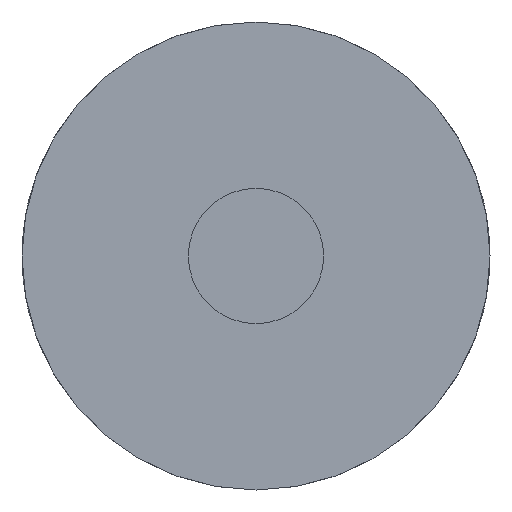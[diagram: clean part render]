
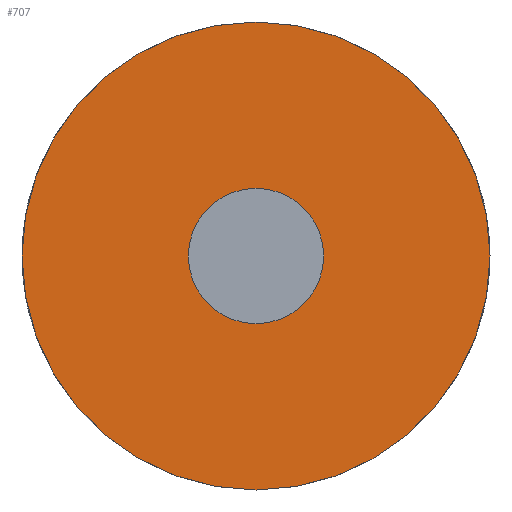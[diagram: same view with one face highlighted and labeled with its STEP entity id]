
A CAD part, front view. The second image highlights one B-rep face of the part: STEP entity #707.
In plain terms, the highlighted planar face has unit normal (0, -1, 0).
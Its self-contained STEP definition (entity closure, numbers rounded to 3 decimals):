
#3 = CARTESIAN_POINT ( 'NONE',  ( 0., 0., 0. ) ) ;
#31 = CARTESIAN_POINT ( 'NONE',  ( 0., 0., 0. ) ) ;
#68 = CIRCLE ( 'NONE', #885, 6. ) ;
#72 = DIRECTION ( 'NONE',  ( 0., 0., 1. ) ) ;
#81 = DIRECTION ( 'NONE',  ( 0., 0., 1. ) ) ;
#103 = CARTESIAN_POINT ( 'NONE',  ( 0., 0., 0. ) ) ;
#160 = EDGE_CURVE ( 'NONE', #254, #847, #68, .T. ) ;
#163 = DIRECTION ( 'NONE',  ( 0., 1., 0. ) ) ;
#164 = DIRECTION ( 'NONE',  ( 0., 0., 1. ) ) ;
#183 = ORIENTED_EDGE ( 'NONE', *, *, #402, .F. ) ;
#254 = VERTEX_POINT ( 'NONE', #571 ) ;
#255 = VERTEX_POINT ( 'NONE', #596 ) ;
#344 = AXIS2_PLACEMENT_3D ( 'NONE', #807, #370, #880 ) ;
#370 = DIRECTION ( 'NONE',  ( 0., 1., 0. ) ) ;
#381 = ORIENTED_EDGE ( 'NONE', *, *, #697, .F. ) ;
#402 = EDGE_CURVE ( 'NONE', #847, #254, #663, .T. ) ;
#436 = FACE_OUTER_BOUND ( 'NONE', #828, .T. ) ;
#440 = AXIS2_PLACEMENT_3D ( 'NONE', #588, #163, #666 ) ;
#448 = ORIENTED_EDGE ( 'NONE', *, *, #160, .F. ) ;
#456 = CIRCLE ( 'NONE', #440, 20.75 ) ;
#469 = EDGE_CURVE ( 'NONE', #255, #483, #502, .T. ) ;
#473 = CARTESIAN_POINT ( 'NONE',  ( 0., 0., -6. ) ) ;
#483 = VERTEX_POINT ( 'NONE', #523 ) ;
#490 = DIRECTION ( 'NONE',  ( 0., -1., 0. ) ) ;
#502 = CIRCLE ( 'NONE', #344, 20.75 ) ;
#504 = DIRECTION ( 'NONE',  ( 0., 1., 0. ) ) ;
#522 = EDGE_LOOP ( 'NONE', ( #448, #183 ) ) ;
#523 = CARTESIAN_POINT ( 'NONE',  ( 0., 0., 20.75 ) ) ;
#565 = AXIS2_PLACEMENT_3D ( 'NONE', #3, #490, #72 ) ;
#571 = CARTESIAN_POINT ( 'NONE',  ( 0., 0., 6. ) ) ;
#588 = CARTESIAN_POINT ( 'NONE',  ( 0., 0., 0. ) ) ;
#590 = DIRECTION ( 'NONE',  ( 0., -1., 0. ) ) ;
#596 = CARTESIAN_POINT ( 'NONE',  ( 0., 0., -20.75 ) ) ;
#663 = CIRCLE ( 'NONE', #565, 6. ) ;
#666 = DIRECTION ( 'NONE',  ( 0., 0., 1. ) ) ;
#671 = FACE_BOUND ( 'NONE', #522, .T. ) ;
#697 = EDGE_CURVE ( 'NONE', #483, #255, #456, .T. ) ;
#707 = ADVANCED_FACE ( 'NONE', ( #671, #436 ), #877, .F. ) ;
#802 = ORIENTED_EDGE ( 'NONE', *, *, #469, .F. ) ;
#807 = CARTESIAN_POINT ( 'NONE',  ( 0., 0., 0. ) ) ;
#828 = EDGE_LOOP ( 'NONE', ( #802, #381 ) ) ;
#847 = VERTEX_POINT ( 'NONE', #473 ) ;
#870 = AXIS2_PLACEMENT_3D ( 'NONE', #31, #504, #81 ) ;
#877 = PLANE ( 'NONE',  #870 ) ;
#880 = DIRECTION ( 'NONE',  ( 0., 0., 1. ) ) ;
#885 = AXIS2_PLACEMENT_3D ( 'NONE', #103, #590, #164 ) ;
